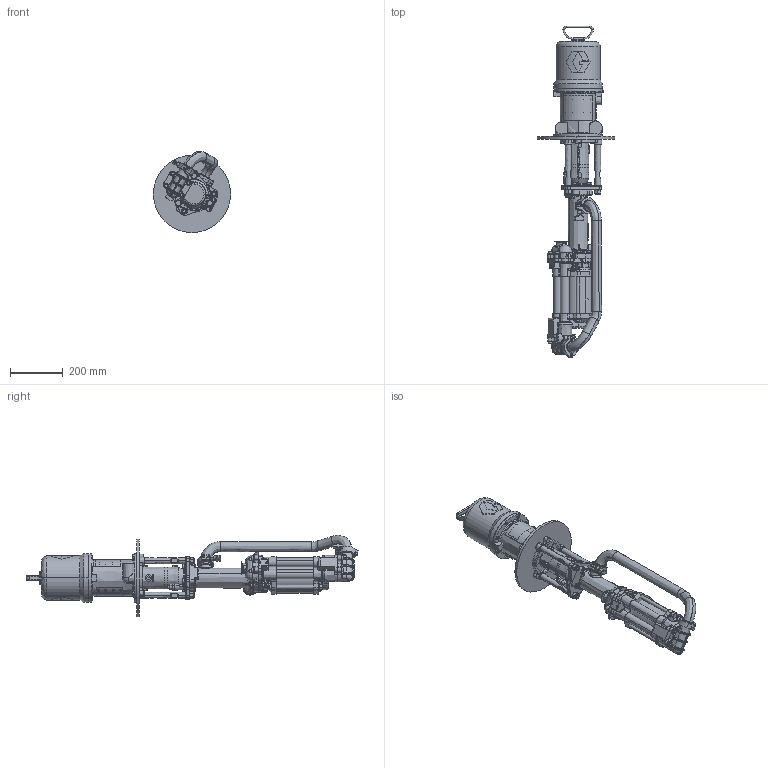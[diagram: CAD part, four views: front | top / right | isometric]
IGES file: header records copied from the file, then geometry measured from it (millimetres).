
Start section:  PTC IGES file: 17e222-en-f.igs
Global section: file name: 17e222-en-f.igs; native system: Creo Parametric by PTC Inc.; preprocessor: 2019030; author: qusrh3; organization: Unknown; date: 20200305.072135; units: inch
Bounding box: 292.1 x 1256.67 x 307.18 mm (x, y, z)
Surface area: 1213119 mm2 (no closed solid volume)
Topology: 0 solids, 0 shells, 2617 faces, 12738 edges, 12722 vertices
Faces by surface type: revolution 1428, bspline 1164, extrusion 25
